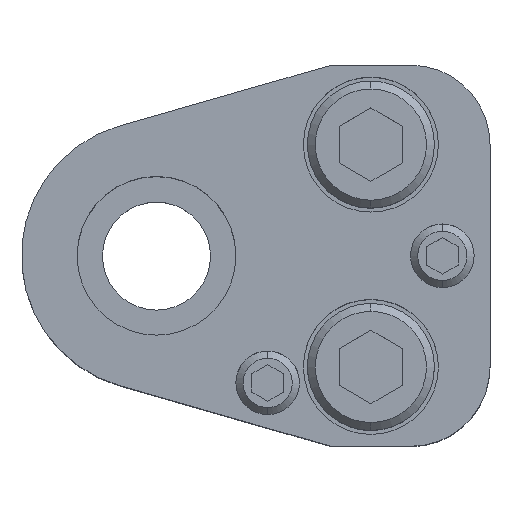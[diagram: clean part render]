
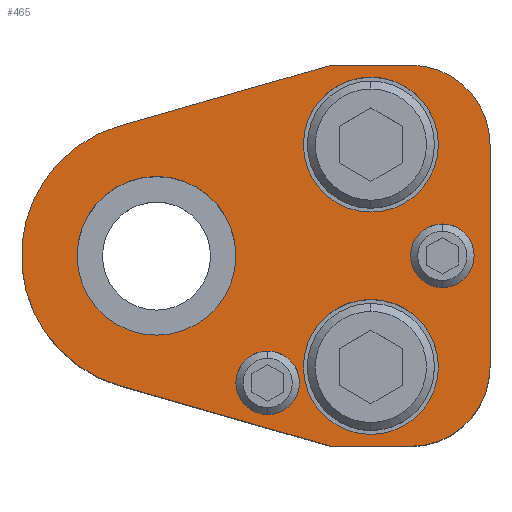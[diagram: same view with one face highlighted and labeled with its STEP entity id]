
A CAD part, top view. The second image highlights one B-rep face of the part: STEP entity #465.
In plain terms, the highlighted planar face has unit normal (0, 0, 1).
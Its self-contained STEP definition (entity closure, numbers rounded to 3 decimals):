
#219=FACE_BOUND('',#833,.T.);
#220=FACE_BOUND('',#834,.T.);
#221=FACE_BOUND('',#835,.T.);
#222=FACE_BOUND('',#836,.T.);
#223=FACE_BOUND('',#837,.T.);
#224=FACE_BOUND('',#838,.T.);
#269=CIRCLE('',#2664,10.);
#271=CIRCLE('',#2668,10.);
#281=CIRCLE('',#2684,8.5);
#283=CIRCLE('',#2687,8.5);
#285=CIRCLE('',#2691,8.5);
#287=CIRCLE('',#2694,8.5);
#290=CIRCLE('',#2699,17.);
#292=CIRCLE('',#2705,10.);
#294=CIRCLE('',#2708,10.);
#314=CIRCLE('',#2743,4.);
#315=CIRCLE('',#2744,4.);
#316=CIRCLE('',#2745,4.);
#317=CIRCLE('',#2746,4.);
#465=ADVANCED_FACE('',(#219,#220,#221,#222,#223,#224),#584,.T.);
#584=PLANE('',#2747);
#833=EDGE_LOOP('',(#1239,#1240,#1241,#1242,#1243,#1244,#1245,#1246));
#834=EDGE_LOOP('',(#1247,#1248));
#835=EDGE_LOOP('',(#1249,#1250));
#836=EDGE_LOOP('',(#1251,#1252));
#837=EDGE_LOOP('',(#1253,#1254));
#838=EDGE_LOOP('',(#1255,#1256));
#1239=ORIENTED_EDGE('',*,*,#1976,.T.);
#1240=ORIENTED_EDGE('',*,*,#1985,.T.);
#1241=ORIENTED_EDGE('',*,*,#1935,.T.);
#1242=ORIENTED_EDGE('',*,*,#1939,.T.);
#1243=ORIENTED_EDGE('',*,*,#1942,.T.);
#1244=ORIENTED_EDGE('',*,*,#1945,.T.);
#1245=ORIENTED_EDGE('',*,*,#1948,.T.);
#1246=ORIENTED_EDGE('',*,*,#1980,.T.);
#1247=ORIENTED_EDGE('',*,*,#2026,.F.);
#1248=ORIENTED_EDGE('',*,*,#2027,.F.);
#1249=ORIENTED_EDGE('',*,*,#2028,.F.);
#1250=ORIENTED_EDGE('',*,*,#2029,.F.);
#1251=ORIENTED_EDGE('',*,*,#1972,.F.);
#1252=ORIENTED_EDGE('',*,*,#1968,.F.);
#1253=ORIENTED_EDGE('',*,*,#1966,.F.);
#1254=ORIENTED_EDGE('',*,*,#1962,.F.);
#1255=ORIENTED_EDGE('',*,*,#1996,.T.);
#1256=ORIENTED_EDGE('',*,*,#1993,.T.);
#1686=VERTEX_POINT('',#3857);
#1687=VERTEX_POINT('',#3859);
#1690=VERTEX_POINT('',#3866);
#1692=VERTEX_POINT('',#3872);
#1694=VERTEX_POINT('',#3878);
#1696=VERTEX_POINT('',#3884);
#1705=VERTEX_POINT('',#3913);
#1706=VERTEX_POINT('',#3914);
#1709=VERTEX_POINT('',#3926);
#1710=VERTEX_POINT('',#3927);
#1715=VERTEX_POINT('',#3942);
#1716=VERTEX_POINT('',#3944);
#1726=VERTEX_POINT('',#3977);
#1727=VERTEX_POINT('',#3979);
#1746=VERTEX_POINT('',#4047);
#1747=VERTEX_POINT('',#4048);
#1748=VERTEX_POINT('',#4051);
#1749=VERTEX_POINT('',#4052);
#1935=EDGE_CURVE('',#1687,#1686,#2269,.T.);
#1939=EDGE_CURVE('',#1686,#1690,#269,.T.);
#1942=EDGE_CURVE('',#1690,#1692,#2274,.T.);
#1945=EDGE_CURVE('',#1692,#1694,#271,.T.);
#1948=EDGE_CURVE('',#1694,#1696,#2278,.T.);
#1962=EDGE_CURVE('',#1705,#1706,#281,.T.);
#1966=EDGE_CURVE('',#1706,#1705,#283,.T.);
#1968=EDGE_CURVE('',#1709,#1710,#285,.T.);
#1972=EDGE_CURVE('',#1710,#1709,#287,.T.);
#1976=EDGE_CURVE('',#1716,#1715,#290,.T.);
#1980=EDGE_CURVE('',#1696,#1716,#2292,.T.);
#1985=EDGE_CURVE('',#1715,#1687,#2297,.T.);
#1993=EDGE_CURVE('',#1727,#1726,#292,.T.);
#1996=EDGE_CURVE('',#1726,#1727,#294,.T.);
#2026=EDGE_CURVE('',#1746,#1747,#314,.T.);
#2027=EDGE_CURVE('',#1747,#1746,#315,.T.);
#2028=EDGE_CURVE('',#1748,#1749,#316,.T.);
#2029=EDGE_CURVE('',#1749,#1748,#317,.T.);
#2269=LINE('',#3858,#2467);
#2274=LINE('',#3873,#2472);
#2278=LINE('',#3885,#2476);
#2292=LINE('',#3951,#2490);
#2297=LINE('',#3959,#2495);
#2467=VECTOR('',#3061,1.);
#2472=VECTOR('',#3074,1.);
#2476=VECTOR('',#3086,1.);
#2490=VECTOR('',#3160,1.);
#2495=VECTOR('',#3167,1.);
#2664=AXIS2_PLACEMENT_3D('',#3867,#3067,#3068);
#2668=AXIS2_PLACEMENT_3D('',#3879,#3079,#3080);
#2684=AXIS2_PLACEMENT_3D('',#3912,#3118,#3119);
#2687=AXIS2_PLACEMENT_3D('',#3921,#3126,#3127);
#2691=AXIS2_PLACEMENT_3D('',#3925,#3134,#3135);
#2694=AXIS2_PLACEMENT_3D('',#3934,#3142,#3143);
#2699=AXIS2_PLACEMENT_3D('',#3943,#3153,#3154);
#2705=AXIS2_PLACEMENT_3D('',#3978,#3179,#3180);
#2708=AXIS2_PLACEMENT_3D('',#3983,#3186,#3187);
#2743=AXIS2_PLACEMENT_3D('',#4046,#3266,#3267);
#2744=AXIS2_PLACEMENT_3D('',#4049,#3268,#3269);
#2745=AXIS2_PLACEMENT_3D('',#4050,#3270,#3271);
#2746=AXIS2_PLACEMENT_3D('',#4053,#3272,#3273);
#2747=AXIS2_PLACEMENT_3D('',#4054,#3274,#3275);
#3061=DIRECTION('',(1.,0.,0.));
#3067=DIRECTION('',(0.,0.,1.));
#3068=DIRECTION('',(-0.707,0.707,0.));
#3074=DIRECTION('',(0.,1.,0.));
#3079=DIRECTION('',(0.,0.,1.));
#3080=DIRECTION('',(-0.707,-0.707,0.));
#3086=DIRECTION('',(-1.,0.,0.));
#3118=DIRECTION('',(0.,0.,1.));
#3119=DIRECTION('',(-1.,0.,0.));
#3126=DIRECTION('',(0.,0.,1.));
#3127=DIRECTION('',(1.,0.,0.));
#3134=DIRECTION('',(0.,0.,1.));
#3135=DIRECTION('',(-1.,0.,0.));
#3142=DIRECTION('',(0.,0.,1.));
#3143=DIRECTION('',(1.,0.,0.));
#3153=DIRECTION('',(0.,0.,1.));
#3154=DIRECTION('',(0.,1.,0.));
#3160=DIRECTION('',(-0.961,-0.276,0.));
#3167=DIRECTION('',(0.961,-0.276,0.));
#3179=DIRECTION('',(0.,0.,-1.));
#3180=DIRECTION('',(1.,0.,0.));
#3186=DIRECTION('',(0.,0.,-1.));
#3187=DIRECTION('',(-1.,0.,0.));
#3266=DIRECTION('',(0.,0.,1.));
#3267=DIRECTION('',(1.,0.,0.));
#3268=DIRECTION('',(0.,0.,1.));
#3269=DIRECTION('',(-1.,0.,0.));
#3270=DIRECTION('',(0.,0.,1.));
#3271=DIRECTION('',(1.,0.,0.));
#3272=DIRECTION('',(0.,0.,1.));
#3273=DIRECTION('',(-1.,0.,0.));
#3274=DIRECTION('',(0.,0.,1.));
#3275=DIRECTION('',(0.961,0.276,0.));
#3857=CARTESIAN_POINT('',(32.,-24.,35.));
#3858=CARTESIAN_POINT('',(22.,-24.,35.));
#3859=CARTESIAN_POINT('',(22.,-24.,35.));
#3866=CARTESIAN_POINT('',(42.,-14.,35.));
#3867=CARTESIAN_POINT('',(32.,-14.,35.));
#3872=CARTESIAN_POINT('',(42.,14.,35.));
#3873=CARTESIAN_POINT('',(42.,-14.,35.));
#3878=CARTESIAN_POINT('',(32.,24.,35.));
#3879=CARTESIAN_POINT('',(32.,14.,35.));
#3884=CARTESIAN_POINT('',(22.,24.,35.));
#3885=CARTESIAN_POINT('',(22.,24.,35.));
#3912=CARTESIAN_POINT('',(27.,14.,35.));
#3913=CARTESIAN_POINT('',(27.,5.5,35.));
#3914=CARTESIAN_POINT('',(27.,22.5,35.));
#3921=CARTESIAN_POINT('',(27.,14.,35.));
#3925=CARTESIAN_POINT('',(27.,-14.,35.));
#3926=CARTESIAN_POINT('',(27.,-22.5,35.));
#3927=CARTESIAN_POINT('',(27.,-5.5,35.));
#3934=CARTESIAN_POINT('',(27.,-14.,35.));
#3942=CARTESIAN_POINT('',(-4.69,-16.34,35.));
#3943=CARTESIAN_POINT('',(0.,0.,35.));
#3944=CARTESIAN_POINT('',(-4.69,16.34,35.));
#3951=CARTESIAN_POINT('',(22.,24.,35.));
#3959=CARTESIAN_POINT('',(22.,-24.,35.));
#3977=CARTESIAN_POINT('',(0.,10.,35.));
#3978=CARTESIAN_POINT('',(0.,0.,35.));
#3979=CARTESIAN_POINT('',(0.,-10.,35.));
#3983=CARTESIAN_POINT('',(0.,0.,35.));
#4046=CARTESIAN_POINT('',(36.,0.,35.));
#4047=CARTESIAN_POINT('',(36.,4.,35.));
#4048=CARTESIAN_POINT('',(36.,-4.,35.));
#4049=CARTESIAN_POINT('',(36.,0.,35.));
#4050=CARTESIAN_POINT('',(14.,-16.,35.));
#4051=CARTESIAN_POINT('',(14.,-12.,35.));
#4052=CARTESIAN_POINT('',(14.,-20.,35.));
#4053=CARTESIAN_POINT('',(14.,-16.,35.));
#4054=CARTESIAN_POINT('',(-4.69,16.34,35.));
